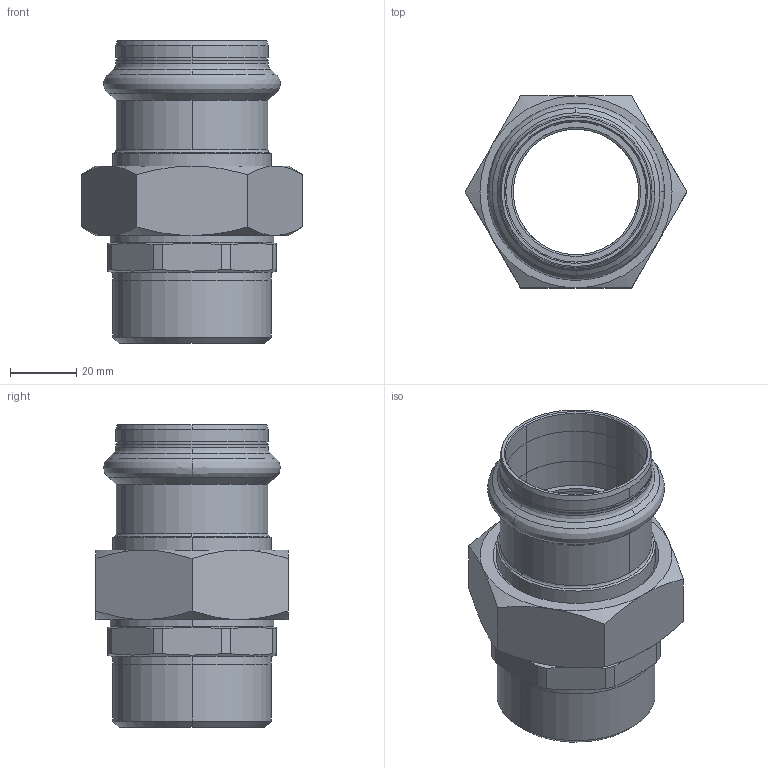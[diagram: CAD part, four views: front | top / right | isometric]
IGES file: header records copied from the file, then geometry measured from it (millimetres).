
Start section: Elysium IGES Interface
Global section: file name: F:\3d modellen sudo\S-Pr VP\SP6331GV\6331GVW42112.igs; native system: CoCreate Modeling 17.00A  17-Jun-2010; preprocessor: CoCreate IGES_3D V2.2; author: Unknown; organization: Unknown; date: 20130129.091103; units: millimetre
Bounding box: 66.97 x 58 x 91.4 mm (x, y, z)
Volume: 71132.5 mm3; surface area: 38259.4 mm2
Topology: 3 solids, 3 shells, 128 faces, 316 edges, 198 vertices
Faces by surface type: bspline 128
